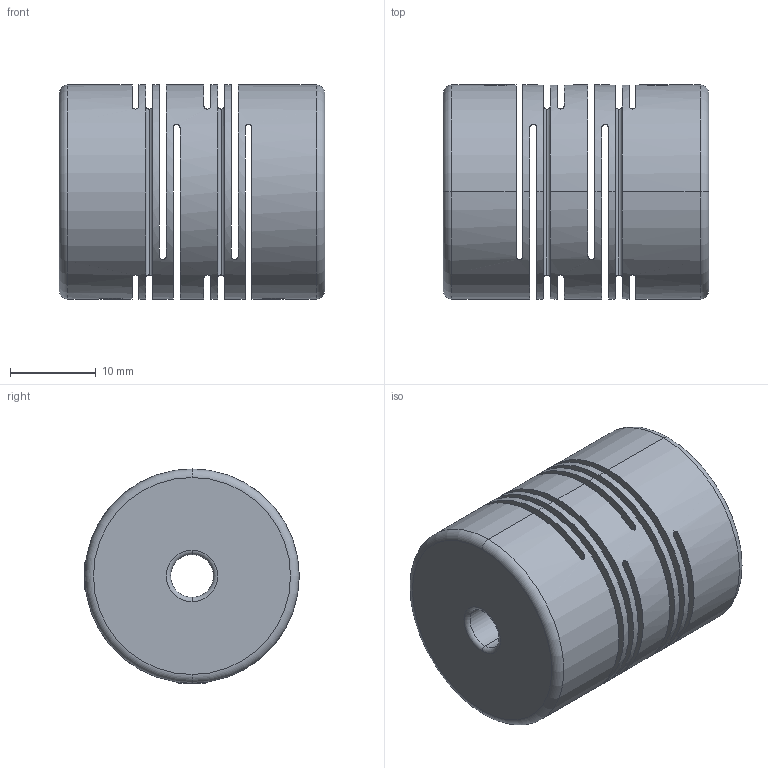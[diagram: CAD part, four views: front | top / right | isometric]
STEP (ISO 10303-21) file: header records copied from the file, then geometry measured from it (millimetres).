
FILE_DESCRIPTION (( 'STEP AP203' ), '1' );
FILE_NAME ('FSMML25-5x6.STEP', '2013-12-23T08:21:50', ( '123' ), ( '' ), 'SwSTEP 2.0', 'SolidWorks 2013', '' );
FILE_SCHEMA (( 'CONFIG_CONTROL_DESIGN' ));
Length unit declared in the file: millimetre
Products named in the file (1): FSMML25-5x6
Bounding box: 31 x 25 x 25 mm (x, y, z)
Surface area: 9720.7 mm2 (no closed solid volume)
Topology: 0 solids, 7 shells, 100 faces, 314 edges, 216 vertices
Faces by surface type: plane 46, cylinder 26, cone 12, bspline 8, torus 8
Entity records: 4291 total; most frequent: CARTESIAN_POINT 1465, DIRECTION 556, ORIENTED_EDGE 544, EDGE_CURVE 314, VERTEX_POINT 216, AXIS2_PLACEMENT_3D 213, VECTOR 130, LINE 130
